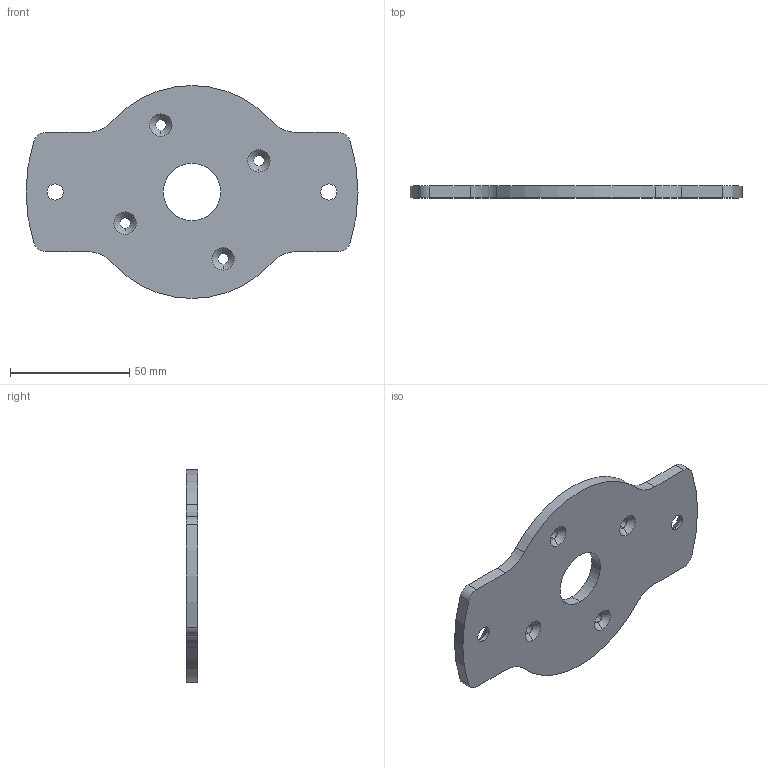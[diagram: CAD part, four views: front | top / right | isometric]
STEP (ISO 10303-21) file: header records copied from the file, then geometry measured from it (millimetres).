
FILE_DESCRIPTION (( 'STEP AP214' ), '1' );
FILE_NAME ('BKT-000030-XX REV B.STEP', '2016-12-08T00:39:16', ( '' ), ( '' ), 'SwSTEP 2.0', 'SolidWorks 2016', '' );
FILE_SCHEMA (( 'AUTOMOTIVE_DESIGN' ));
Length unit declared in the file: millimetre
Products named in the file (2): BKT-000030-XX REV B
Bounding box: 139.48 x 5 x 89.48 mm (x, y, z)
Volume: 41030.1 mm3; surface area: 19303.3 mm2
Topology: 1 solids, 1 shells, 45 faces, 117 edges, 74 vertices
Faces by surface type: cylinder 27, cone 12, plane 6
Entity records: 1478 total; most frequent: DIRECTION 277, CARTESIAN_POINT 238, ORIENTED_EDGE 234, EDGE_CURVE 117, AXIS2_PLACEMENT_3D 113, VERTEX_POINT 74, CIRCLE 66, EDGE_LOOP 59
